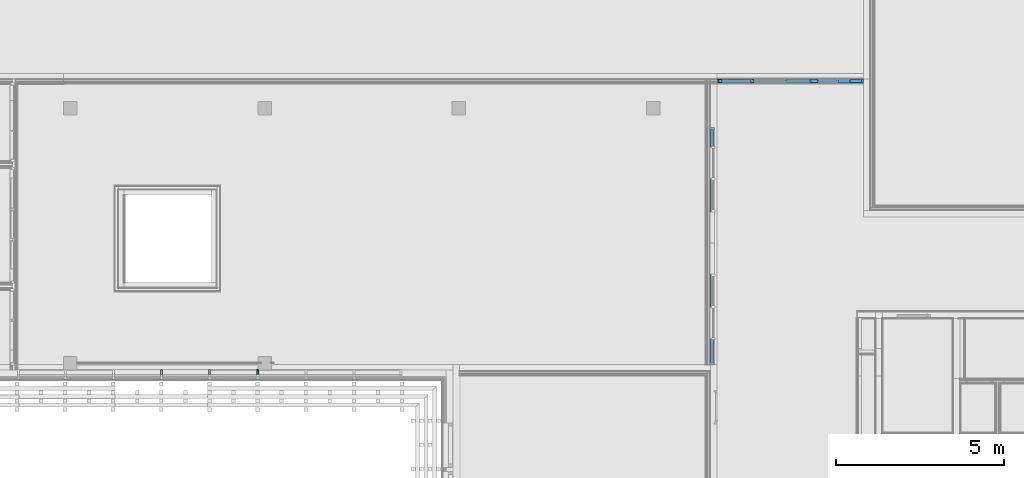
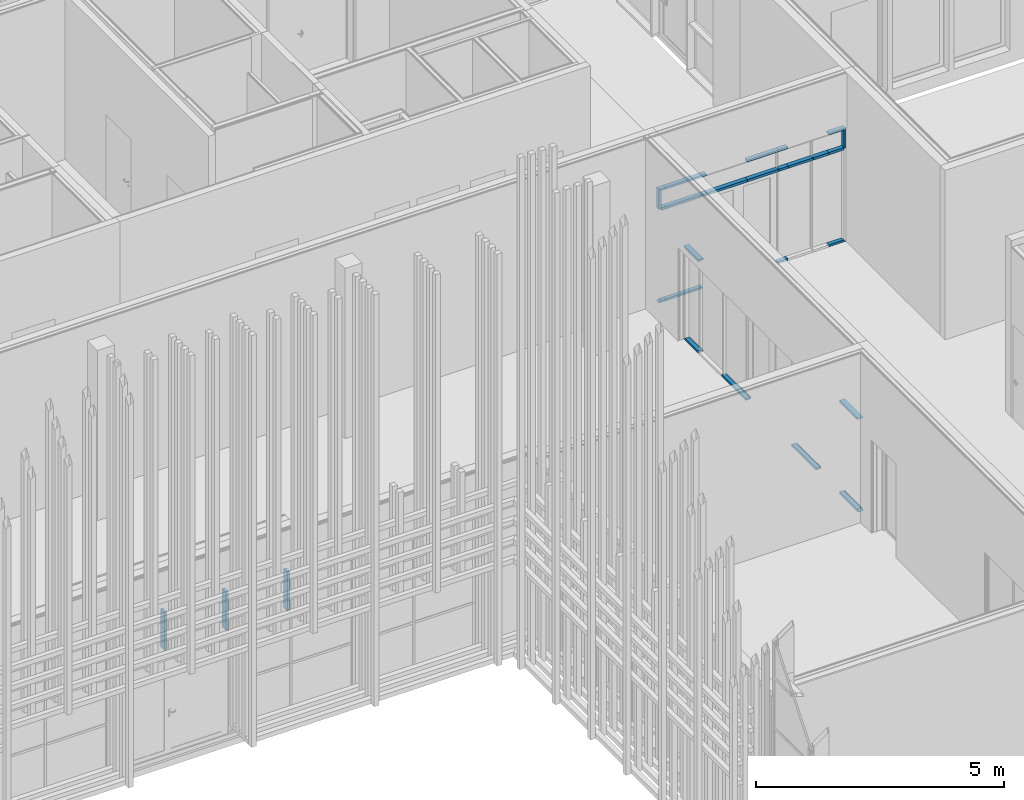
# One storey, part 97 of 260: 30 members, 3 elements without a shape of their own.
"""IFC2X3 building model written with IfcOpenShell, lengths in millimetres."""

from ifc_helpers import new_model, entity, si_unit, converted_unit, derived_unit, money_unit, direction, frame, origin_with_axes, place, context, subcontext, project, spatial, faceted_brep, material, type_object, element, aggregate, save


model = new_model("IFC2X3")

# Units and contexts
model_context = context("Model", 3, precision=0.01, world=origin_with_axes(), true_north=direction((0.0, 1.0)))
body_context = subcontext(model_context, "Body", "Model", "MODEL_VIEW")
ifc_project = project(units=[si_unit("LENGTHUNIT", "METRE", prefix="MILLI"), si_unit("AREAUNIT", "SQUARE_METRE"), si_unit("VOLUMEUNIT", "CUBIC_METRE"), converted_unit("PLANEANGLEUNIT", "DEGREE", entity("IfcPlaneAngleMeasure", 0.0174532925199), si_unit("PLANEANGLEUNIT", "RADIAN"), dimensions=[0, 0, 0, 0, 0, 0, 0]), money_unit("EUR"), converted_unit("TIMEUNIT", "Year", entity("IfcTimeMeasure", 31556926.0), si_unit("TIMEUNIT", "SECOND"), dimensions=[0, 0, 1, 0, 0, 0, 0]), si_unit("MASSUNIT", "GRAM", prefix="KILO"), si_unit("THERMODYNAMICTEMPERATUREUNIT", "DEGREE_CELSIUS"), si_unit("LUMINOUSINTENSITYUNIT", "LUMEN"), si_unit("ENERGYUNIT", "JOULE", prefix="MEGA"), derived_unit("THERMALCONDUCTANCEUNIT", [(si_unit("POWERUNIT", "WATT"), 1), (si_unit("LENGTHUNIT", "METRE"), -1), (si_unit("THERMODYNAMICTEMPERATUREUNIT", "KELVIN"), -1)]), derived_unit("SPECIFICHEATCAPACITYUNIT", [(si_unit("ENERGYUNIT", "JOULE"), 1), (si_unit("MASSUNIT", "GRAM", prefix="KILO"), -1), (si_unit("THERMODYNAMICTEMPERATUREUNIT", "KELVIN"), -1)]), derived_unit("MASSDENSITYUNIT", [(si_unit("MASSUNIT", "GRAM", prefix="KILO"), 1), (si_unit("VOLUMEUNIT", "CUBIC_METRE"), -1)])], contexts=[model_context])

# Site, building, storey
site_placement = place(None, origin_with_axes())
site = spatial("IfcSite", under=ifc_project, at=site_placement, Name="Kolde pst 67a", CompositionType="ELEMENT")
building_placement = place(site_placement, origin_with_axes())
building = spatial("IfcBuilding", under=site, at=building_placement, Name="Riigigümnaasium", CompositionType="ELEMENT")
storey_placement = place(building_placement, origin_with_axes())
storey = spatial("IfcBuildingStorey", under=building, at=storey_placement, Name="1. korrus", CompositionType="ELEMENT", Elevation=0.0)

# Curtain wall, members
curtain_wall_type = type_object("IfcCurtainWallType", Name="Curtain Wall Type", PredefinedType="NOTDEFINED")
curtain_wall_1_placement = place(storey_placement, frame((32274.8343542, 56679.9979478, 0.0), z_axis=(0.0, 0.0, 1.0), x_axis=(1.0, 0.0, 0.0)))
curtain_wall_1 = element("IfcCurtainWall", 1, at=curtain_wall_1_placement, inside=storey, type_object=curtain_wall_type, Name="KLAASSEIN")
ifc_material_1 = material(Name="_GENEERILINE MATERJAL")
member_type_1 = type_object("IfcMemberType", Name="Boundary Frame 50 x 100", PredefinedType="MEMBER")
member_1_placement = place(curtain_wall_1_placement, frame((2394.22500466, 0.0, 0.0), z_axis=(1.0, 0.0, 0.0), x_axis=(0.0, 0.0, 1.0)))
member_1 = element("IfcMember", 2, at=member_1_placement, type_object=member_type_1, material=ifc_material_1, Name="RF RAAM SERV-198", ObjectType="MEMBER", context=body_context, shape_type="Brep", body=[
    faceted_brep([(50.0, 10.0, -10.0), (50.0, 100.0, -10.0), (50.0, 100.0, 223.440318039), (50.0, 10.0, 223.440318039), (25.0, 10.0, -10.0), (25.0, 0.0, -10.0), (0.0, 0.0, -10.0), (0.0, 100.0, -10.0), (0.0, 100.0, 223.440318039), (25.0, 10.0, 223.440318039), (0.0, 0.0, 223.440318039), (25.0, 0.0, 223.440318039)], [[[0, 1, 2, 3]], [[4, 5, 6, 7, 1, 0]], [[1, 7, 8, 2]], [[9, 3, 2, 8, 10, 11]], [[9, 4, 0, 3]], [[5, 4, 9, 11]], [[11, 10, 6, 5]], [[7, 6, 10, 8]]]),
])
member_2_placement = place(curtain_wall_1_placement, frame((-232.334677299, 0.0, 0.0), z_axis=(1.0, 0.0, 0.0), x_axis=(0.0, 0.0, 1.0)))
member_2 = element("IfcMember", 3, at=member_2_placement, type_object=member_type_1, material=ifc_material_1, Name="RF RAAM SERV-196", ObjectType="MEMBER", context=body_context, shape_type="Brep", body=[
    faceted_brep([(50.0, 10.0, 0.0), (50.0, 100.0, 0.0), (50.0, 100.0, 859.500888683), (50.0, 10.0, 859.500888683), (25.0, 10.0, 0.0), (25.0, 0.0, 0.0), (0.0, 0.0, 0.0), (0.0, 100.0, 0.0), (0.0, 100.0, 859.500888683), (25.0, 10.0, 859.500888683), (0.0, 0.0, 859.500888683), (25.0, 0.0, 859.500888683)], [[[0, 1, 2, 3]], [[4, 5, 6, 7, 1, 0]], [[1, 7, 8, 2]], [[9, 3, 2, 8, 10, 11]], [[9, 4, 0, 3]], [[5, 4, 9, 11]], [[11, 10, 6, 5]], [[7, 6, 10, 8]]]),
])
member_3_placement = place(curtain_wall_1_placement, frame((-384.831534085, 0.0, 0.0), z_axis=(1.0, 0.0, 0.0), x_axis=(0.0, 0.0, 1.0)))
member_3 = element("IfcMember", 4, at=member_3_placement, type_object=member_type_1, material=ifc_material_1, Name="RF RAAM SERV-195", ObjectType="MEMBER", context=body_context, shape_type="Brep", body=[
    faceted_brep([(50.0, 10.0, 50.0), (50.0, 100.0, 50.0), (50.0, 100.0, 152.496856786), (50.0, 10.0, 152.496856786), (25.0, 10.0, 25.0), (25.0, 0.0, 25.0), (0.0, 0.0, 0.0), (0.0, 100.0, 0.0), (0.0, 100.0, 152.496856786), (25.0, 10.0, 152.496856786), (0.0, 0.0, 152.496856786), (25.0, 0.0, 152.496856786)], [[[0, 1, 2, 3]], [[4, 5, 6, 7, 1, 0]], [[2, 1, 7, 8]], [[9, 3, 2, 8, 10, 11]], [[9, 4, 0, 3]], [[5, 4, 9, 11]], [[11, 10, 6, 5]], [[8, 7, 6, 10]]]),
])
member_4_placement = place(curtain_wall_1_placement, frame((3567.6653227, 0.0, 0.0), z_axis=(1.0, 0.0, 0.0), x_axis=(0.0, 0.0, 1.0)))
member_4 = element("IfcMember", 5, at=member_4_placement, type_object=member_type_1, material=ifc_material_1, Name="RF RAAM SERV-200", ObjectType="MEMBER", context=body_context, shape_type="Brep", body=[
    faceted_brep([(50.0, 10.0, 0.0), (50.0, 100.0, 0.0), (50.0, 100.0, 347.499542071), (50.0, 10.0, 347.499542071), (25.0, 10.0, 0.0), (25.0, 0.0, 0.0), (0.0, 0.0, 0.0), (0.0, 100.0, 0.0), (0.0, 100.0, 397.499542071), (25.0, 10.0, 372.499542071), (0.0, 0.0, 397.499542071), (25.0, 0.0, 372.499542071)], [[[0, 1, 2, 3]], [[4, 5, 6, 7, 1, 0]], [[1, 7, 8, 2]], [[9, 3, 2, 8, 10, 11]], [[9, 4, 0, 3]], [[5, 4, 9, 11]], [[11, 10, 6, 5]], [[7, 6, 10, 8]]]),
])
member_5_placement = place(curtain_wall_1_placement, frame((-384.831534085, 0.0, 2800.0000945), z_axis=(0.0, 0.0, -1.0), x_axis=(1.0, 0.0, 0.0)))
member_5 = element("IfcMember", 6, at=member_5_placement, type_object=member_type_1, material=ifc_material_1, Name="RF RAAM SERV-209", ObjectType="MEMBER", context=body_context, shape_type="Brep", body=[
    faceted_brep([(50.0, 10.0, 50.0), (50.0, 100.0, 50.0), (50.0, 100.0, 500.000094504), (50.0, 10.0, 500.000094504), (25.0, 10.0, 25.0), (25.0, 0.0, 25.0), (0.0, 0.0, 0.0), (0.0, 100.0, 0.0), (0.0, 100.0, 500.000094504), (25.0, 10.0, 500.000094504), (0.0, 0.0, 500.000094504), (25.0, 0.0, 500.000094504)], [[[0, 1, 2, 3]], [[4, 5, 6, 7, 1, 0]], [[2, 1, 7, 8]], [[9, 3, 2, 8, 10, 11]], [[9, 4, 0, 3]], [[5, 4, 9, 11]], [[11, 10, 6, 5]], [[8, 7, 6, 10]]]),
])
member_6_placement = place(curtain_wall_1_placement, frame((-232.334677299, 0.0, 2800.0000945), z_axis=(-1.0, 0.0, 0.0), x_axis=(0.0, 0.0, -1.0)))
member_6 = element("IfcMember", 7, at=member_6_placement, type_object=member_type_1, material=ifc_material_1, Name="RF RAAM SERV-208", ObjectType="MEMBER", context=body_context, shape_type="Brep", body=[
    faceted_brep([(50.0, 10.0, -2.90981461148e-07), (50.0, 100.0, -2.90981461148e-07), (50.0, 100.0, 102.496856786), (50.0, 10.0, 102.496856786), (25.0, 10.0, -2.90981461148e-07), (25.0, 0.0, -2.90981461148e-07), (0.0, 0.0, -2.90981461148e-07), (0.0, 100.0, -2.90981461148e-07), (0.0, 100.0, 152.496856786), (25.0, 10.0, 127.496856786), (0.0, 0.0, 152.496856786), (25.0, 0.0, 127.496856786)], [[[0, 1, 2, 3]], [[4, 5, 6, 7, 1, 0]], [[1, 7, 8, 2]], [[9, 3, 2, 8, 10, 11]], [[9, 4, 0, 3]], [[5, 4, 9, 11]], [[11, 10, 6, 5]], [[7, 6, 10, 8]]]),
])
member_7_placement = place(curtain_wall_1_placement, frame((617.166212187, 0.0, 2800.00008462), z_axis=(-1.0, 0.0, 1.16391713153e-08), x_axis=(-1.16391713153e-08, 0.0, -1.0)))
member_7 = element("IfcMember", 8, at=member_7_placement, type_object=member_type_1, material=ifc_material_1, Name="RF RAAM SERV-207", ObjectType="MEMBER", context=body_context, shape_type="Brep", body=[
    faceted_brep([(50.0, 10.0, -5.81962922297e-07), (50.0, 100.0, -5.81962922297e-07), (50.0000098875, 100.0, 849.500889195), (50.0000098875, 10.0, 849.500889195), (25.0, 10.0, -2.90981461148e-07), (25.0, 0.0, -2.90981461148e-07), (0.0, 0.0, 0.0), (0.0, 100.0, 0.0), (9.8874863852e-06, 100.0, 849.500889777), (25.0000098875, 10.0, 849.500889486), (9.8874863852e-06, 0.0, 849.500889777), (25.0000098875, 0.0, 849.500889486)], [[[0, 1, 2, 3]], [[4, 5, 6, 7, 1, 0]], [[1, 7, 8, 2]], [[9, 3, 2, 8, 10, 11]], [[9, 4, 0, 3]], [[5, 4, 9, 11]], [[11, 10, 6, 5]], [[7, 6, 10, 8]]]),
])
member_8_placement = place(curtain_wall_1_placement, frame((2394.22499959, 0.0, 2800.00008345), z_axis=(-1.0, 0.0, 0.0), x_axis=(0.0, 0.0, -1.0)))
member_8 = element("IfcMember", 9, at=member_8_placement, type_object=member_type_1, material=ifc_material_1, Name="RF RAAM SERV-205", ObjectType="MEMBER", context=body_context, shape_type="Brep", body=[
    faceted_brep([(50.0, 10.0, 0.0), (50.0, 100.0, 0.0), (50.0, 100.0, 726.559676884), (50.0, 10.0, 726.559676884), (25.0, 10.0, 0.0), (25.0, 0.0, 0.0), (0.0, 0.0, 0.0), (0.0, 100.0, 0.0), (0.0, 100.0, 726.559676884), (25.0, 10.0, 726.559676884), (0.0, 0.0, 726.559676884), (25.0, 0.0, 726.559676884)], [[[0, 1, 2, 3]], [[4, 5, 6, 7, 1, 0]], [[1, 7, 8, 2]], [[9, 3, 2, 8, 10, 11]], [[9, 4, 0, 3]], [[5, 4, 9, 11]], [[11, 10, 6, 5]], [[7, 6, 10, 8]]]),
])
member_9_placement = place(curtain_wall_1_placement, frame((3965.16486477, 0.0, 2800.00008484), z_axis=(-1.0, 0.0, -3.51615047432e-09), x_axis=(3.51615047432e-09, 0.0, -1.0)))
member_9 = element("IfcMember", 10, at=member_9_placement, type_object=member_type_1, material=ifc_material_1, Name="RF RAAM SERV-203", ObjectType="MEMBER", context=body_context, shape_type="Brep", body=[
    faceted_brep([(49.9999998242, 10.0, 50.0000003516), (49.9999998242, 100.0, 50.0000003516), (49.9999986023, 100.0, 397.499542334), (49.9999986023, 10.0, 397.499542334), (24.9999999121, 10.0, 25.0000001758), (24.9999999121, 0.0, 25.0000001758), (0.0, 0.0, 0.0), (0.0, 100.0, 0.0), (-1.3976682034e-06, 100.0, 397.499542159), (24.9999986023, 10.0, 397.499542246), (-1.3976682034e-06, 0.0, 397.499542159), (24.9999986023, 0.0, 397.499542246)], [[[0, 1, 2, 3]], [[4, 5, 6, 7, 1, 0]], [[2, 1, 7, 8]], [[9, 3, 2, 8, 10, 11]], [[9, 4, 0, 3]], [[5, 4, 9, 11]], [[11, 10, 6, 5]], [[8, 7, 6, 10]]]),
])
member_10_placement = place(curtain_wall_1_placement, frame((3965.16486477, 0.0, 2300.0), z_axis=(0.0, 0.0, 1.0), x_axis=(-1.0, 0.0, 0.0)))
member_10 = element("IfcMember", 11, at=member_10_placement, type_object=member_type_1, material=ifc_material_1, Name="RF RAAM SERV-202", ObjectType="MEMBER", context=body_context, shape_type="Brep", body=[
    faceted_brep([(50.0, 10.0, 0.0), (50.0, 100.0, 0.0), (50.0, 100.0, 450.000084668), (50.0, 10.0, 450.000084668), (25.0, 10.0, 0.0), (25.0, 0.0, 0.0), (0.0, 0.0, 0.0), (0.0, 100.0, 0.0), (0.0, 100.0, 500.000084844), (25.0, 10.0, 475.000084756), (0.0, 0.0, 500.000084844), (25.0, 0.0, 475.000084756)], [[[0, 1, 2, 3]], [[4, 5, 6, 7, 1, 0]], [[1, 7, 8, 2]], [[9, 3, 2, 8, 10, 11]], [[9, 4, 0, 3]], [[5, 4, 9, 11]], [[11, 10, 6, 5]], [[7, 6, 10, 8]]]),
])
member_11_placement = place(curtain_wall_1_placement, frame((717.665322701, 0.0, 2800.00008345), z_axis=(-1.0, 0.0, 1.16391730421e-08), x_axis=(-1.16391730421e-08, 0.0, -1.0)))
member_11 = element("IfcMember", 12, at=member_11_placement, type_object=member_type_1, material=ifc_material_1, Name="RF RAAM SERV-212", ObjectType="MEMBER", context=body_context, shape_type="Brep", body=[
    faceted_brep([(50.0, 10.0, -8.72937278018e-07), (50.0, 100.0, -8.72937278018e-07), (50.0000011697, 100.0, 100.499109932), (50.0000011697, 10.0, 100.499109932), (25.0, 10.0, -5.8195581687e-07), (25.0, 0.0, -5.8195581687e-07), (0.0, 0.0, -2.90981461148e-07), (0.0, 100.0, -2.90981461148e-07), (1.16972653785e-06, 100.0, 100.499110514), (25.0000011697, 10.0, 100.499110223), (1.16972653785e-06, 0.0, 100.499110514), (25.0000011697, 0.0, 100.499110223)], [[[0, 1, 2, 3]], [[4, 5, 6, 7, 1, 0]], [[1, 7, 8, 2]], [[9, 3, 2, 8, 10, 11]], [[9, 4, 0, 3]], [[5, 4, 9, 11]], [[11, 10, 6, 5]], [[7, 6, 10, 8]]]),
])
member_12_placement = place(curtain_wall_1_placement, frame((2617.6653227, 0.0, 2800.00008345), z_axis=(-1.0, 0.0, 0.0), x_axis=(0.0, 0.0, -1.0)))
member_12 = element("IfcMember", 13, at=member_12_placement, type_object=member_type_1, material=ifc_material_1, Name="RF RAAM SERV-213", ObjectType="MEMBER", context=body_context, shape_type="Brep", body=[
    faceted_brep([(50.0, 10.0, 0.0), (50.0, 100.0, 0.0), (50.0, 100.0, 223.440323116), (50.0, 10.0, 223.440323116), (25.0, 10.0, 0.0), (25.0, 0.0, 0.0), (0.0, 0.0, 0.0), (0.0, 100.0, 0.0), (0.0, 100.0, 223.440323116), (25.0, 10.0, 223.440323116), (0.0, 0.0, 223.440323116), (25.0, 0.0, 223.440323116)], [[[0, 1, 2, 3]], [[4, 5, 6, 7, 1, 0]], [[1, 7, 8, 2]], [[9, 3, 2, 8, 10, 11]], [[9, 4, 0, 3]], [[5, 4, 9, 11]], [[11, 10, 6, 5]], [[7, 6, 10, 8]]]),
])

curtain_wall_2_placement = place(storey_placement, frame((31790.0027795, 49434.9164747, -6.11802017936e-05), z_axis=(0.0, 0.0, 1.0), x_axis=(1.0, 0.0, 0.0)))
curtain_wall_2 = element("IfcCurtainWall", 14, at=curtain_wall_2_placement, inside=storey, type_object=curtain_wall_type, Name="KLAASSEIN")
member_type_2 = type_object("IfcMemberType", Name="Boundary Frame 50 x 120", PredefinedType="MEMBER")
member_13_placement = place(curtain_wall_2_placement, frame((0.0, -1234.93591572, 2300.0001182), z_axis=(0.0, 1.0, 0.0), x_axis=(0.0, 0.0, 1.0)))
member_13 = element("IfcMember", 15, at=member_13_placement, type_object=member_type_2, material=ifc_material_1, Name="RF RAAM SERV-131", ObjectType="MEMBER", context=body_context, shape_type="Brep", body=[
    faceted_brep([(-30.0, -10.0, 759.935915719), (-50.0, -10.0, 759.935915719), (-50.0, -100.0, 759.935915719), (0.0, -100.0, 759.935915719), (0.0, 20.0, 759.935915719), (-50.0, 20.0, 759.935915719), (-50.0, 10.0, 759.935915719), (-30.0, 10.0, 759.935915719), (-30.0, -10.0, 30.0), (-50.0, -10.0, 50.0), (-50.0, -100.0, 50.0), (0.0, -100.0, 0.0), (0.0, 20.0, 0.0), (-50.0, 20.0, 50.0), (-50.0, 10.0, 50.0), (-30.0, 10.0, 30.0)], [[[0, 1, 2, 3, 4, 5, 6, 7]], [[0, 8, 9, 1]], [[9, 10, 2, 1]], [[2, 10, 11, 3]], [[3, 11, 12, 4]], [[4, 12, 13, 5]], [[6, 5, 13, 14]], [[14, 15, 7, 6]], [[7, 15, 8, 0]], [[8, 15, 14, 13, 12, 11, 10, 9]]]),
])
member_14_placement = place(curtain_wall_2_placement, frame((0.0, 475.0, 1.68701678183e-05), z_axis=(0.0, 1.0, 0.0), x_axis=(0.0, 0.0, 1.0)))
member_14 = element("IfcMember", 16, at=member_14_placement, type_object=member_type_2, material=ifc_material_1, Name="RF RAAM SERV-135", ObjectType="MEMBER", context=body_context, shape_type="Brep", body=[
    faceted_brep([(30.0, -10.0, 975.0), (30.0, 10.0, 975.0), (50.0, 10.0, 975.0), (50.0, 20.0, 975.0), (0.0, 20.0, 975.0), (0.0, -100.0, 975.0), (50.0, -100.0, 975.0), (50.0, -10.0, 975.0), (30.0, -10.0, 0.0), (30.0, 10.0, 0.0), (50.0, 10.0, 0.0), (50.0, 20.0, 0.0), (0.0, 20.0, 0.0), (0.0, -100.0, 0.0), (50.0, -100.0, 0.0), (50.0, -10.0, 0.0)], [[[0, 1, 2, 3, 4, 5, 6, 7]], [[1, 0, 8, 9]], [[10, 2, 1, 9]], [[2, 10, 11, 3]], [[12, 4, 3, 11]], [[13, 5, 4, 12]], [[14, 6, 5, 13]], [[15, 7, 6, 14]], [[0, 7, 15, 8]], [[8, 15, 14, 13, 12, 11, 10, 9]]]),
])
member_15_placement = place(curtain_wall_2_placement, frame((0.0, 3325.0, 1.68701678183e-05), z_axis=(0.0, 1.0, 0.0), x_axis=(0.0, 0.0, 1.0)))
member_15 = element("IfcMember", 17, at=member_15_placement, type_object=member_type_2, material=ifc_material_1, Name="RF RAAM SERV-138", ObjectType="MEMBER", context=body_context, shape_type="Brep", body=[
    faceted_brep([(30.0, -10.0, 950.0), (30.0, 10.0, 950.0), (50.0, 10.0, 950.0), (50.0, 20.0, 950.0), (0.0, 20.0, 950.0), (0.0, -100.0, 950.0), (50.0, -100.0, 950.0), (50.0, -10.0, 950.0), (30.0, -10.0, -25.0), (30.0, 10.0, -25.0), (50.0, 10.0, -25.0), (50.0, 20.0, -25.0), (0.0, 20.0, -25.0), (0.0, -100.0, -25.0), (50.0, -100.0, -25.0), (50.0, -10.0, -25.0)], [[[0, 1, 2, 3, 4, 5, 6, 7]], [[1, 0, 8, 9]], [[10, 2, 1, 9]], [[2, 10, 11, 3]], [[12, 4, 3, 11]], [[13, 5, 4, 12]], [[14, 6, 5, 13]], [[15, 7, 6, 14]], [[0, 7, 15, 8]], [[8, 15, 14, 13, 12, 11, 10, 9]]]),
])
member_16_placement = place(curtain_wall_2_placement, frame((0.0, -1234.93591572, 1.68701678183e-05), z_axis=(0.0, 1.0, 0.0), x_axis=(0.0, 0.0, 1.0)))
member_16 = element("IfcMember", 18, at=member_16_placement, type_object=member_type_2, material=ifc_material_1, Name="RF RAAM SERV-133", ObjectType="MEMBER", context=body_context, shape_type="Brep", body=[
    faceted_brep([(30.0, -10.0, 759.935915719), (30.0, 10.0, 759.935915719), (50.0, 10.0, 759.935915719), (50.0, 20.0, 759.935915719), (0.0, 20.0, 759.935915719), (0.0, -100.0, 759.935915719), (50.0, -100.0, 759.935915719), (50.0, -10.0, 759.935915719), (30.0, -10.0, 30.0), (30.0, 10.0, 30.0), (50.0, 10.0, 50.0), (50.0, 20.0, 50.0), (0.0, 20.0, 0.0), (0.0, -100.0, 0.0), (50.0, -100.0, 50.0), (50.0, -10.0, 50.0)], [[[0, 1, 2, 3, 4, 5, 6, 7]], [[1, 0, 8, 9]], [[10, 2, 1, 9]], [[2, 10, 11, 3]], [[4, 3, 11, 12]], [[5, 4, 12, 13]], [[6, 5, 13, 14]], [[15, 7, 6, 14]], [[0, 7, 15, 8]], [[8, 15, 14, 13, 12, 11, 10, 9]]]),
])
member_17_placement = place(curtain_wall_2_placement, frame((0.0, 5225.0, 2300.0001182), z_axis=(0.0, 1.0, 0.0), x_axis=(0.0, 0.0, 1.0)))
member_17 = element("IfcMember", 19, at=member_17_placement, type_object=member_type_2, material=ifc_material_1, Name="RF RAAM SERV-142", ObjectType="MEMBER", context=body_context, shape_type="Brep", body=[
    faceted_brep([(-30.0, -10.0, 549.832688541), (-50.0, -10.0, 529.832688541), (-50.0, -100.0, 529.832688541), (0.0, -100.0, 579.832688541), (0.0, 20.0, 579.832688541), (-50.0, 20.0, 529.832688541), (-50.0, 10.0, 529.832688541), (-30.0, 10.0, 549.832688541), (-30.0, -10.0, 0.0), (-50.0, -10.0, 0.0), (-50.0, -100.0, 0.0), (0.0, -100.0, 0.0), (0.0, 20.0, 0.0), (-50.0, 20.0, 0.0), (-50.0, 10.0, 0.0), (-30.0, 10.0, 0.0)], [[[0, 1, 2, 3, 4, 5, 6, 7]], [[0, 8, 9, 1]], [[9, 10, 2, 1]], [[10, 11, 3, 2]], [[11, 12, 4, 3]], [[12, 13, 5, 4]], [[6, 5, 13, 14]], [[14, 15, 7, 6]], [[7, 15, 8, 0]], [[8, 15, 14, 13, 12, 11, 10, 9]]]),
])
member_18_placement = place(curtain_wall_2_placement, frame((0.0, 5225.0, 1.68701678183e-05), z_axis=(0.0, 1.0, 0.0), x_axis=(0.0, 0.0, 1.0)))
member_18 = element("IfcMember", 20, at=member_18_placement, type_object=member_type_2, material=ifc_material_1, Name="RF RAAM SERV-140", ObjectType="MEMBER", context=body_context, shape_type="Brep", body=[
    faceted_brep([(30.0, -10.0, 549.832688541), (30.0, 10.0, 549.832688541), (50.0, 10.0, 529.832688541), (50.0, 20.0, 529.832688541), (0.0, 20.0, 579.832688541), (0.0, -100.0, 579.832688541), (50.0, -100.0, 529.832688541), (50.0, -10.0, 529.832688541), (30.0, -10.0, 0.0), (30.0, 10.0, 0.0), (50.0, 10.0, 0.0), (50.0, 20.0, 0.0), (0.0, 20.0, 0.0), (0.0, -100.0, 0.0), (50.0, -100.0, 0.0), (50.0, -10.0, 0.0)], [[[0, 1, 2, 3, 4, 5, 6, 7]], [[1, 0, 8, 9]], [[10, 2, 1, 9]], [[2, 10, 11, 3]], [[12, 4, 3, 11]], [[13, 5, 4, 12]], [[14, 6, 5, 13]], [[15, 7, 6, 14]], [[0, 7, 15, 8]], [[8, 15, 14, 13, 12, 11, 10, 9]]]),
])
aggregate(curtain_wall_2, [member_13, member_14, member_15, member_16, member_17, member_18])

# Member
member_type_3 = type_object("IfcMemberType", Name="Transom Frame 60 x 100", PredefinedType="MEMBER")
member_19_placement = place(curtain_wall_1_placement, frame((-384.831534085, 0.0, 2300.0), z_axis=(1.0, 0.0, 0.0), x_axis=(0.0, 0.0, 1.0)))
member_19 = element("IfcMember", 21, at=member_19_placement, type_object=member_type_3, material=ifc_material_1, Name="RF RAAM HOR-389", ObjectType="MEMBER", context=body_context, shape_type="Brep", body=[
    faceted_brep([(30.0, 10.0, 50.0), (30.0, 110.0, 50.0), (30.0, 110.0, 152.496856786), (30.0, 10.0, 152.496856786), (-30.0, 10.0, 50.0), (-30.0, 110.0, 50.0), (-30.0, 110.0, 152.496856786), (-30.0, 10.0, 152.496856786)], [[[0, 1, 2, 3]], [[1, 0, 4, 5]], [[1, 5, 6, 2]], [[2, 6, 7, 3]], [[4, 0, 3, 7]], [[5, 4, 7, 6]]]),
])

member_20_placement = place(curtain_wall_1_placement, frame((617.166211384, 0.0, 2300.0), z_axis=(1.0, 0.0, 0.0), x_axis=(0.0, 0.0, 1.0)))
member_20 = element("IfcMember", 22, at=member_20_placement, type_object=member_type_3, material=ifc_material_1, Name="RF RAAM HOR-388", ObjectType="MEMBER", context=body_context, shape_type="Brep", body=[
    faceted_brep([(30.0, 10.0, 10.0), (30.0, 110.0, 10.0), (30.0, 110.0, 100.499111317), (30.0, 10.0, 100.499111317), (-30.0, 10.0, 10.0), (-30.0, 110.0, 10.0), (-30.0, 110.0, 100.499111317), (-30.0, 10.0, 100.499111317)], [[[0, 1, 2, 3]], [[1, 0, 4, 5]], [[1, 5, 6, 2]], [[2, 6, 7, 3]], [[4, 0, 3, 7]], [[5, 4, 7, 6]]]),
])

member_21_placement = place(curtain_wall_1_placement, frame((717.665322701, 0.0, 2300.0), z_axis=(1.0, 0.0, 0.0), x_axis=(0.0, 0.0, 1.0)))
member_21 = element("IfcMember", 23, at=member_21_placement, type_object=member_type_3, material=ifc_material_1, Name="RF RAAM HOR-387", ObjectType="MEMBER", context=body_context, shape_type="Brep", body=[
    faceted_brep([(30.0, 110.0, 0.0), (30.0, 110.0, 950.0), (30.0, 10.0, 950.0), (30.0, 10.0, 0.0), (-30.0, 110.0, 0.0), (-30.0, 110.0, 950.0), (-30.0, 10.0, 950.0), (-30.0, 10.0, 0.0)], [[[0, 1, 2, 3]], [[4, 5, 1, 0]], [[1, 5, 6, 2]], [[3, 2, 6, 7]], [[0, 3, 7, 4]], [[7, 6, 5, 4]]]),
])

member_22_placement = place(curtain_wall_1_placement, frame((3197.20572557, 0.0, 2300.0), z_axis=(1.0, 0.0, 0.0), x_axis=(0.0, 0.0, 1.0)))
member_22 = element("IfcMember", 24, at=member_22_placement, type_object=member_type_3, material=ifc_material_1, Name="RF RAAM HOR-386", ObjectType="MEMBER", context=body_context, shape_type="Brep", body=[
    faceted_brep([(30.0, 10.0, 10.0000000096), (30.0, 110.0, 10.000000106), (30.0, 110.0, 370.459597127), (30.0, 10.0, 370.459597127), (-30.0, 10.0, 10.0000000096), (-30.0, 110.0, 10.000000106), (-30.0, 110.0, 370.459597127), (-30.0, 10.0, 370.459597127)], [[[0, 1, 2, 3]], [[1, 0, 4, 5]], [[1, 5, 6, 2]], [[2, 6, 7, 3]], [[4, 0, 3, 7]], [[5, 4, 7, 6]]]),
])

member_23_placement = place(curtain_wall_1_placement, frame((2394.22500466, 0.0, 2300.0), z_axis=(1.0, 0.0, 0.0), x_axis=(0.0, 0.0, 1.0)))
member_23 = element("IfcMember", 25, at=member_23_placement, type_object=member_type_3, material=ifc_material_1, Name="RF RAAM HOR-385", ObjectType="MEMBER", context=body_context, shape_type="Brep", body=[
    faceted_brep([(30.0, 10.0, 10.0000001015), (30.0, 110.0, 10.000001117), (30.0, 110.0, 223.440318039), (30.0, 10.0, 223.440318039), (-30.0, 10.0, 10.0000001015), (-30.0, 110.0, 10.000001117), (-30.0, 110.0, 223.440318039), (-30.0, 10.0, 223.440318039)], [[[0, 1, 2, 3]], [[1, 0, 4, 5]], [[1, 5, 6, 2]], [[2, 6, 7, 3]], [[4, 0, 3, 7]], [[5, 4, 7, 6]]]),
])

member_24_placement = place(curtain_wall_1_placement, frame((-232.334677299, 0.0, 2300.0), z_axis=(1.0, 0.0, 0.0), x_axis=(0.0, 0.0, 1.0)))
member_24 = element("IfcMember", 26, at=member_24_placement, type_object=member_type_3, material=ifc_material_1, Name="RF RAAM HOR-384", ObjectType="MEMBER", context=body_context, shape_type="Brep", body=[
    faceted_brep([(30.0, 110.0, 0.0), (30.0, 110.0, 839.500888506), (30.0, 10.0, 839.500888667), (30.0, 10.0, 0.0), (-30.0, 110.0, 0.0), (-30.0, 110.0, 839.500888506), (-30.0, 10.0, 839.500888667), (-30.0, 10.0, 0.0)], [[[0, 1, 2, 3]], [[4, 5, 1, 0]], [[1, 5, 6, 2]], [[3, 2, 6, 7]], [[0, 3, 7, 4]], [[7, 6, 5, 4]]]),
])

member_25_placement = place(curtain_wall_1_placement, frame((1667.6653227, 0.0, 2300.0), z_axis=(1.0, 0.0, 0.0), x_axis=(0.0, 0.0, 1.0)))
member_25 = element("IfcMember", 27, at=member_25_placement, type_object=member_type_3, material=ifc_material_1, Name="RF RAAM HOR-383", ObjectType="MEMBER", context=body_context, shape_type="Brep", body=[
    faceted_brep([(30.0, 110.0, 0.0), (30.0, 110.0, 716.559681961), (30.0, 10.0, 716.559681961), (30.0, 10.0, 0.0), (-30.0, 110.0, 0.0), (-30.0, 110.0, 716.559681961), (-30.0, 10.0, 716.559681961), (-30.0, 10.0, 0.0)], [[[0, 1, 2, 3]], [[4, 5, 1, 0]], [[1, 5, 6, 2]], [[3, 2, 6, 7]], [[0, 3, 7, 4]], [[7, 6, 5, 4]]]),
])

member_26_placement = place(curtain_wall_1_placement, frame((3567.6653227, 0.0, 2300.0), z_axis=(1.0, 0.0, 0.0), x_axis=(0.0, 0.0, 1.0)))
member_26 = element("IfcMember", 28, at=member_26_placement, type_object=member_type_3, material=ifc_material_1, Name="RF RAAM HOR-382", ObjectType="MEMBER", context=body_context, shape_type="Brep", body=[
    faceted_brep([(30.0, 110.0, 0.0), (30.0, 110.0, 347.499542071), (30.0, 10.0, 347.499542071), (30.0, 10.0, 0.0), (-30.0, 110.0, 0.0), (-30.0, 110.0, 347.499542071), (-30.0, 10.0, 347.499542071), (-30.0, 10.0, 0.0)], [[[0, 1, 2, 3]], [[4, 5, 1, 0]], [[1, 5, 6, 2]], [[3, 2, 6, 7]], [[0, 3, 7, 4]], [[7, 6, 5, 4]]]),
])

member_27_placement = place(curtain_wall_1_placement, frame((2617.6653227, 0.0, 2300.0), z_axis=(1.0, 0.0, 0.0), x_axis=(0.0, 0.0, 1.0)))
member_27 = element("IfcMember", 29, at=member_27_placement, type_object=member_type_3, material=ifc_material_1, Name="RF RAAM HOR-381", ObjectType="MEMBER", context=body_context, shape_type="Brep", body=[
    faceted_brep([(30.0, 110.0, 0.0), (30.0, 110.0, 569.540402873), (30.0, 10.0, 569.540402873), (30.0, 10.0, 0.0), (-30.0, 110.0, 0.0), (-30.0, 110.0, 569.540402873), (-30.0, 10.0, 569.540402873), (-30.0, 10.0, 0.0)], [[[0, 1, 2, 3]], [[4, 5, 1, 0]], [[1, 5, 6, 2]], [[3, 2, 6, 7]], [[0, 3, 7, 4]], [[7, 6, 5, 4]]]),
])

aggregate(curtain_wall_1, [member_19, member_20, member_21, member_1, member_22, member_23, member_2, member_24, member_25, member_3, member_26, member_4, member_27, member_5, member_6, member_7, member_8, member_9, member_10, member_11, member_12])

# Curtain wall, members
curtain_wall_3_placement = place(storey_placement, frame((20393.1747334, 47899.7660528, -0.000116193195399), z_axis=(0.0, 0.0, 1.0), x_axis=(1.0, 0.0, 0.0)))
curtain_wall_3 = element("IfcCurtainWall", 30, at=curtain_wall_3_placement, inside=storey, type_object=curtain_wall_type, Name="Klaasfassaadi puitkarkass")
ifc_material_2 = material(Name="_KANDETARIND - liimpuit vastavalt EK osale")
member_type_4 = type_object("IfcMemberType", Name="Mullion Frame 60 x 160", PredefinedType="MEMBER")
member_28_placement = place(curtain_wall_3_placement, frame((-2145.0, 0.0, 2460.00011619), z_axis=(0.0, 0.0, 1.0), x_axis=(1.0, 0.0, 0.0)))
member_28 = element("IfcMember", 31, at=member_28_placement, type_object=member_type_4, material=ifc_material_2, Name="RF RAAM VERT-448", ObjectType="MEMBER", context=body_context, shape_type="Brep", body=[
    faceted_brep([(30.0, 139.983201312, 0.0), (30.0, 139.983201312, 970.000020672), (30.0, 0.0, 970.000027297), (30.0, 0.0, 0.0), (1.82881091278, 139.983201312, 970.000020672), (1.82881091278, 139.983201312, 0.0), (1.82881091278, 160.0, 970.000019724), (-30.0, 160.0, 970.000019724), (-30.0, 0.0, 970.000027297), (-30.0, 0.0, 0.0), (-30.0, 160.0, 0.0), (1.82881091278, 160.0, 0.0)], [[[0, 1, 2, 3]], [[4, 1, 0, 5]], [[4, 6, 7, 8, 2, 1]], [[9, 3, 2, 8]], [[5, 0, 3, 9, 10, 11]], [[11, 6, 4, 5]], [[6, 11, 10, 7]], [[10, 9, 8, 7]]]),
])
member_29_placement = place(curtain_wall_3_placement, frame((-3575.0, 0.0, 2460.00011619), z_axis=(0.0, 0.0, 1.0), x_axis=(1.0, 0.0, 0.0)))
member_29 = element("IfcMember", 32, at=member_29_placement, type_object=member_type_4, material=ifc_material_2, Name="RF RAAM VERT-449", ObjectType="MEMBER", context=body_context, shape_type="Brep", body=[
    faceted_brep([(0.0, 0.0, 30.0), (0.0, 0.0, 0.0), (30.0, 0.0, 0.0), (30.0, 0.0, 970.000094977), (-30.0, 0.0, 970.000094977), (-30.0, 0.0, 30.0), (0.0, 160.0, 30.0), (0.0, 160.0, 0.0), (30.0, 160.0, 0.0), (30.0, 160.0, 970.000094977), (-30.0, 160.0, 970.000094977), (-30.0, 160.0, 30.0)], [[[0, 1, 2, 3, 4, 5]], [[0, 6, 7, 1]], [[7, 8, 2, 1]], [[2, 8, 9, 3]], [[3, 9, 10, 4]], [[5, 4, 10, 11]], [[5, 11, 6, 0]], [[6, 11, 10, 9, 8, 7]]]),
])
member_30_placement = place(curtain_wall_3_placement, frame((-5005.0, 0.0, 2460.00011619), z_axis=(0.0, 0.0, 1.0), x_axis=(1.0, 0.0, 0.0)))
member_30 = element("IfcMember", 33, at=member_30_placement, type_object=member_type_4, material=ifc_material_2, Name="RF RAAM VERT-450", ObjectType="MEMBER", context=body_context, shape_type="Brep", body=[
    faceted_brep([(30.0, 0.0, 30.0), (30.0, 160.0, 30.0), (30.0, 160.0, 970.000094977), (30.0, 0.0, 970.000094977), (-30.0, 0.0, 30.0), (-30.0, 160.0, 30.0), (-30.0, 160.0, 970.000094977), (-30.0, 0.0, 970.000094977)], [[[0, 1, 2, 3]], [[1, 0, 4, 5]], [[1, 5, 6, 2]], [[2, 6, 7, 3]], [[4, 0, 3, 7]], [[5, 4, 7, 6]]]),
])
aggregate(curtain_wall_3, [member_28, member_29, member_30])

save(model, "model.ifc")
